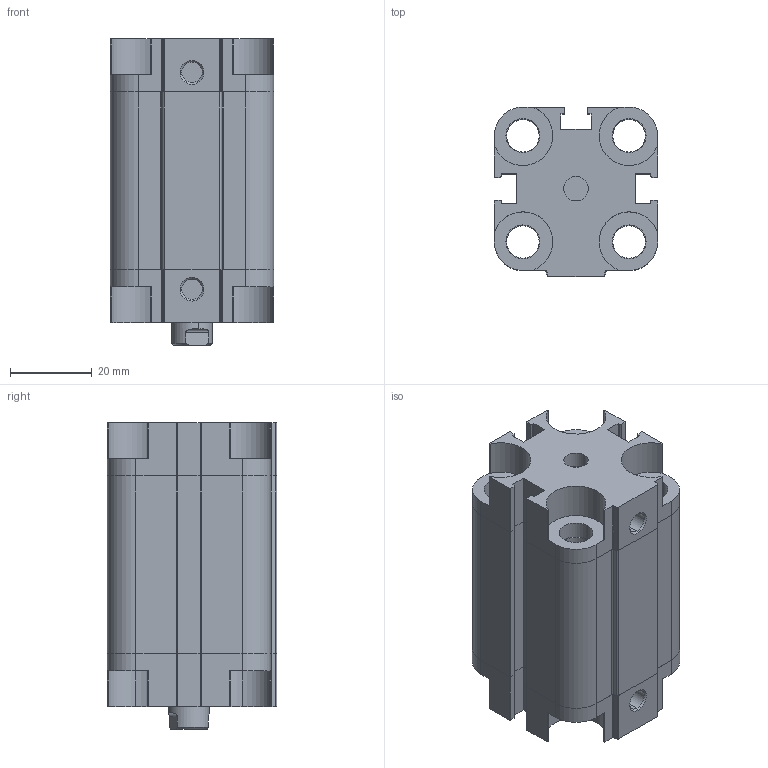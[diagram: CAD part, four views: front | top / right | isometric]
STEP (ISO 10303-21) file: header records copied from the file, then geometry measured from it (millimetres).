
FILE_DESCRIPTION (( 'STEP AP203' ), '1' );
FILE_NAME ('ADVU25X30-SCYLINDER.STEP', '2015-05-22T07:23:00', ( 'user' ), ( '' ), 'SwSTEP 2.0', 'SolidWorks 2013', '' );
FILE_SCHEMA (( 'CONFIG_CONTROL_DESIGN' ));
Length unit declared in the file: millimetre
Products named in the file (6): ADVU25X30-SCYLINDER; ADVU 25-S ARKA KAPAK; ADVU 25-S ORTA PÝSTON; ADVU 25X30-S BORU; ADVU 25-S 烰 KAPAK; ADVU 25X30-S M尳
Assembly tree (5 placements, depth 2):
  ADVU25X30-SCYLINDER
    ADVU 25-S ARKA KAPAK
    ADVU 25-S ORTA PÝSTON
    ADVU 25X30-S BORU
    ADVU 25-S 烰 KAPAK
    ADVU 25X30-S M尳
Bounding box: 40 x 41.5 x 75 mm (x, y, z)
Volume: 63922.5 mm3; surface area: 35937.2 mm2
Topology: 6 solids, 6 shells, 338 faces, 910 edges, 603 vertices
Faces by surface type: cylinder 178, plane 146, cone 14
Entity records: 11506 total; most frequent: CARTESIAN_POINT 1986, DIRECTION 1954, ORIENTED_EDGE 1820, EDGE_CURVE 910, AXIS2_PLACEMENT_3D 715, VERTEX_POINT 603, LINE 524, VECTOR 524
